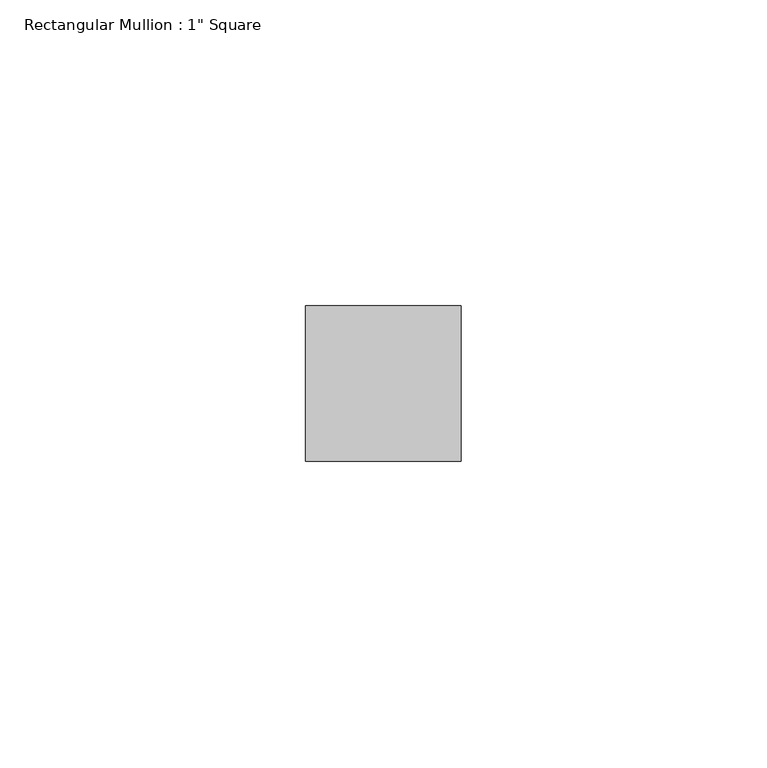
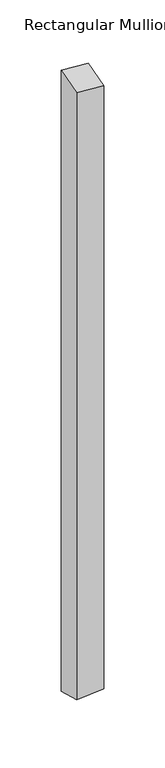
"""IFC4 building model written with IfcOpenShell, lengths in millimetres: member geometry."""

from ifc_helpers import new_model, si_unit, origin, place, context, project, spatial, faceted_brep, source, transform, mapped, element, save


def member_ae0b3619(model_context):
    return source(origin(), model_context, "Body", "Brep", [
        faceted_brep([(-25.4, 12.7, 5.4967377), (0.0, 12.7, 3.5828458), (0.0, 12.7, -613.1828458), (-25.4, 12.7, -615.0967377), (-25.4, -12.7, -1.6689539), (-25.4, -12.7, -607.9310461), (0.0, -12.7, -3.5828458), (0.0, -12.7, -606.0171542)], [[[0, 1, 2, 3]], [[4, 0, 3, 5]], [[6, 4, 5, 7]], [[1, 6, 7, 2]], [[1, 0, 4, 6]], [[2, 7, 5, 3]]]),
    ])


if __name__ == "__main__":
    model = new_model("IFC4")
    model_context = context("Model", 3, world=origin())
    ifc_project = project(units=[si_unit("LENGTHUNIT", "METRE", prefix="MILLI")], contexts=[model_context])
    site = spatial("IfcSite", under=ifc_project)
    building = spatial("IfcBuilding", under=site)
    placement = place(None, origin())
    member_shape = member_ae0b3619(model_context)
    element("IfcMember", 1, ObjectType="Rectangular Mullion : 1\" Square", at=placement, inside=building, context=model_context, shape_type="MappedRepresentation", body=[
        mapped(member_shape, transform((0.0, 0.0, 0.0), x_axis=(1.0, 0.0, 0.0), y_axis=(0.0, 1.0, 0.0), z_axis=(0.0, 0.0, 1.0))),
    ])
    save(model, "model.ifc")
